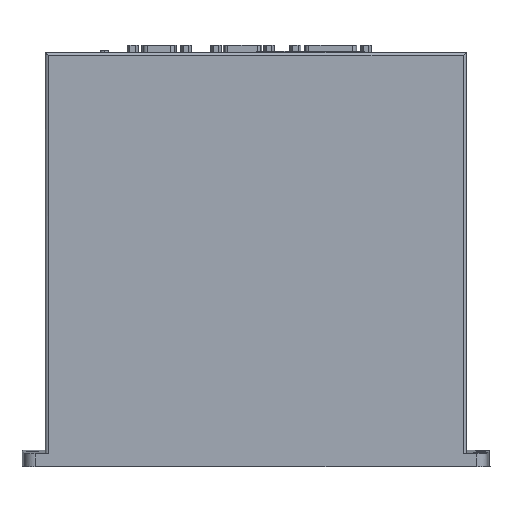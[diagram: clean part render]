
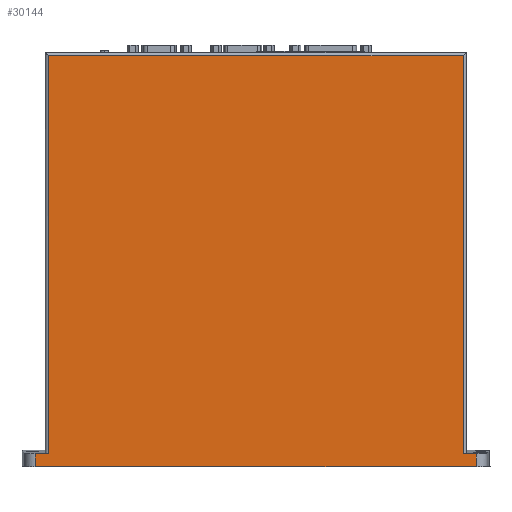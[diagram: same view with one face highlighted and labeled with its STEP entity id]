
A CAD part, front view. The second image highlights one B-rep face of the part: STEP entity #30144.
In plain terms, the highlighted planar face has unit normal (0, -1, 0).
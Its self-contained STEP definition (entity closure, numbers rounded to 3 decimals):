
#18515=DIRECTION('',(0.,0.,-1.));
#18516=VECTOR('',#18515,187.27);
#18517=CARTESIAN_POINT('',(-97.5,-9.,93.77));
#18518=LINE('',#18517,#18516);
#18519=DIRECTION('',(-1.,0.,0.));
#18520=VECTOR('',#18519,195.);
#18521=CARTESIAN_POINT('',(97.5,-9.,93.77));
#18522=LINE('',#18521,#18520);
#18536=DIRECTION('',(1.,0.,0.));
#18537=VECTOR('',#18536,6.215);
#18538=CARTESIAN_POINT('',(97.5,-9.,-93.5));
#18539=LINE('',#18538,#18537);
#18540=DIRECTION('',(-1.,0.,0.));
#18541=VECTOR('',#18540,207.43);
#18542=CARTESIAN_POINT('',(103.715,-9.,-99.5));
#18543=LINE('',#18542,#18541);
#18544=DIRECTION('',(0.,0.,1.));
#18545=VECTOR('',#18544,187.27);
#18546=CARTESIAN_POINT('',(97.5,-9.,-93.5));
#18547=LINE('',#18546,#18545);
#20461=DIRECTION('',(-1.,0.,0.));
#20462=VECTOR('',#20461,6.215);
#20463=CARTESIAN_POINT('',(-97.5,-9.,-93.5));
#20464=LINE('',#20463,#20462);
#20481=DIRECTION('',(0.,0.,-1.));
#20482=VECTOR('',#20481,6.);
#20483=CARTESIAN_POINT('',(-103.715,-9.,-93.5));
#20484=LINE('',#20483,#20482);
#20995=DIRECTION('',(0.,0.,1.));
#20996=VECTOR('',#20995,6.);
#20997=CARTESIAN_POINT('',(103.715,-9.,-99.5));
#20998=LINE('',#20997,#20996);
#28224=CARTESIAN_POINT('',(-103.715,-9.,-99.5));
#28225=VERTEX_POINT('',#28224);
#28226=CARTESIAN_POINT('',(103.715,-9.,-99.5));
#28228=VERTEX_POINT('',#28226);
#28246=CARTESIAN_POINT('',(97.5,-9.,-93.5));
#28247=CARTESIAN_POINT('',(103.715,-9.,-93.5));
#28248=VERTEX_POINT('',#28246);
#28249=VERTEX_POINT('',#28247);
#28271=CARTESIAN_POINT('',(97.5,-9.,93.77));
#28272=VERTEX_POINT('',#28271);
#28273=CARTESIAN_POINT('',(-97.5,-9.,93.77));
#28274=CARTESIAN_POINT('',(-97.5,-9.,-93.5));
#28275=VERTEX_POINT('',#28273);
#28276=VERTEX_POINT('',#28274);
#28279=CARTESIAN_POINT('',(-103.715,-9.,-93.5));
#28280=VERTEX_POINT('',#28279);
#30123=CARTESIAN_POINT('',(0.,-9.,-2.865));
#30124=DIRECTION('',(0.,1.,0.));
#30125=DIRECTION('',(0.,0.,-1.));
#30126=AXIS2_PLACEMENT_3D('',#30123,#30124,#30125);
#30127=PLANE('',#30126);
#30129=ORIENTED_EDGE('',*,*,#30128,.F.);
#30131=ORIENTED_EDGE('',*,*,#30130,.T.);
#30133=ORIENTED_EDGE('',*,*,#30132,.F.);
#30135=ORIENTED_EDGE('',*,*,#30134,.T.);
#30137=ORIENTED_EDGE('',*,*,#30136,.F.);
#30139=ORIENTED_EDGE('',*,*,#30138,.F.);
#30140=ORIENTED_EDGE('',*,*,#30088,.F.);
#30141=ORIENTED_EDGE('',*,*,#30107,.F.);
#30142=EDGE_LOOP('',(#30129,#30131,#30133,#30135,#30137,#30139,#30140,#30141));
#30143=FACE_OUTER_BOUND('',#30142,.F.);
#30144=ADVANCED_FACE('',(#30143),#30127,.F.);
#30088=EDGE_CURVE('',#28275,#28276,#18518,.T.);
#30107=EDGE_CURVE('',#28272,#28275,#18522,.T.);
#30128=EDGE_CURVE('',#28248,#28272,#18547,.T.);
#30130=EDGE_CURVE('',#28248,#28249,#18539,.T.);
#30132=EDGE_CURVE('',#28228,#28249,#20998,.T.);
#30134=EDGE_CURVE('',#28228,#28225,#18543,.T.);
#30136=EDGE_CURVE('',#28280,#28225,#20484,.T.);
#30138=EDGE_CURVE('',#28276,#28280,#20464,.T.);
